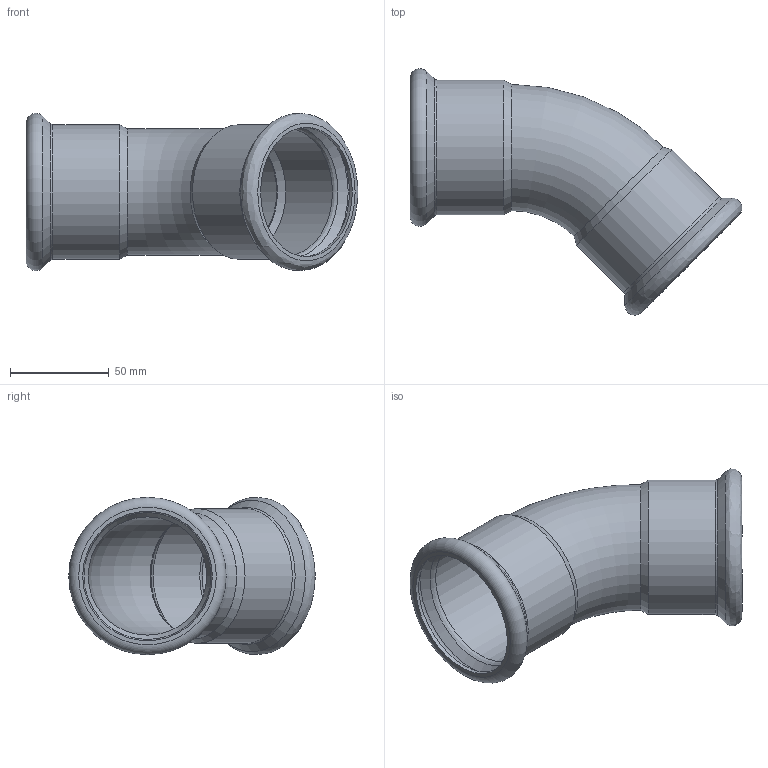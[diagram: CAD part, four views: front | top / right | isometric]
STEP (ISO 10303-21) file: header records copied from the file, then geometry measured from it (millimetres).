
FILE_DESCRIPTION((''),'2;1');
FILE_NAME('G:\Nirosan-Schmiedefeld\Technics\CAD\Bauteile VA\064\064 3d_step\6904164(0).stp','2009-05-08T09:12:35',('herberg'),(''),'Autodesk Inventor 2009','Autodesk Inventor 2009','');
FILE_SCHEMA(('AUTOMOTIVE_DESIGN { 1 0 10303 214 1 1 1 1 }'));
Length unit declared in the file: millimetre
Products named in the file (1): 6904164(0)
Bounding box: 168.33 x 124.94 x 79.8 mm (x, y, z)
Volume: 72799.4 mm3; surface area: 73636.5 mm2
Topology: 1 solids, 1 shells, 32 faces, 66 edges, 38 vertices
Faces by surface type: bspline 17, cylinder 5, torus 4, cone 4, plane 2
Full cylindrical faces by diameter (mm): 60 x1, 64 x1, 64.4 x1, 65.7 x1, 68.4 x1
Entity records: 1175 total; most frequent: CARTESIAN_POINT 664, DIRECTION 96, ORIENTED_EDGE 64, EDGE_LOOP 64, AXIS2_PLACEMENT_3D 48, VERTEX_POINT 32, CIRCLE 32, EDGE_CURVE 32
